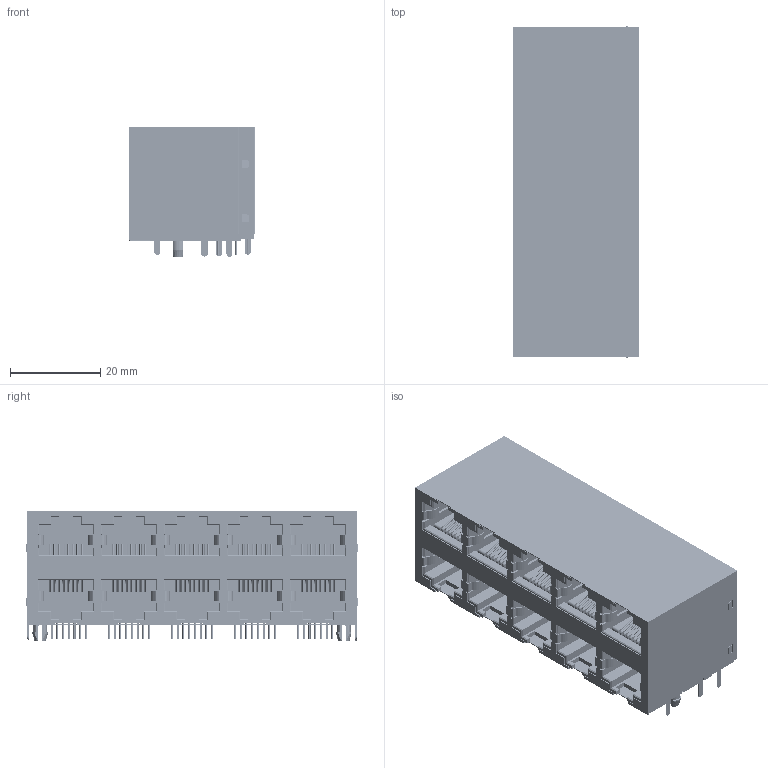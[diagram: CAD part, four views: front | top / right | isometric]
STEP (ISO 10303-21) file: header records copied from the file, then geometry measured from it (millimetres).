
FILE_DESCRIPTION(/* description */ (''),/* implementation_level */ '2;1');
FILE_NAME(/* name */ 'HY59B88-5110010.stp',/* time_stamp */ '2024-03-23T14:48:26+08:00',/* author */ (''),/* organization */ (''),/* preprocessor_version */ 'ST-DEVELOPER v16',/* originating_system */ 'SIEMENS PLM Software NX 10.0',/* authorisation */ '');
FILE_SCHEMA (('CONFIG_CONTROL_DESIGN'));
Products named in the file (1): 21312_stp
Bounding box: 28 x 73.56 x 29.01 mm (x, y, z)
Volume: 27910.4 mm3; surface area: 64298.4 mm2
Topology: 267 solids, 267 shells, 5717 faces, 14969 edges, 9684 vertices
Faces by surface type: plane 4165, cylinder 1302, torus 240, cone 8, extrusion 2
Full cylindrical faces by diameter (mm): 0.46 x400, 0.5 x40, 1 x40
Entity records: 169403 total; most frequent: CARTESIAN_POINT 29747, ORIENTED_EDGE 28338, DIRECTION 28297, EDGE_CURVE 14169, VECTOR 11377, LINE 11375, VERTEX_POINT 9604, AXIS2_PLACEMENT_3D 8460
